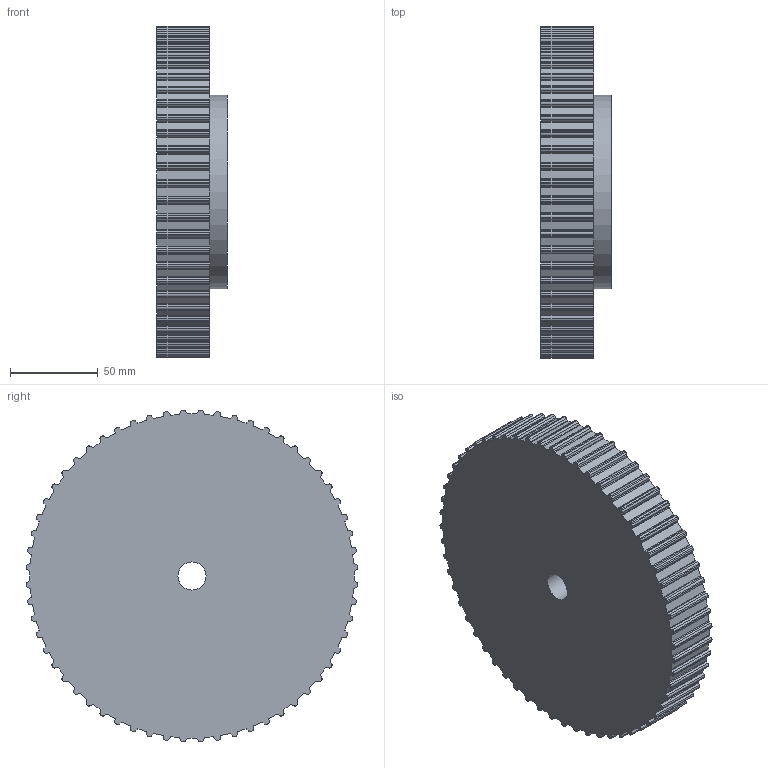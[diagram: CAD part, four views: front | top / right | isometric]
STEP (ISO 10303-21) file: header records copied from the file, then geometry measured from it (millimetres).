
FILE_DESCRIPTION( ( 'STEP AP203' ), '1' );
FILE_NAME( 'C:/Users/Stangenbergd/Documents/CAD_Step/1/16836000.stp', '2020-09-13T09:26:36', ( 'License CC BY-ND 4.0' ), ( 'CADENAS' ), ' ', 'PARTsolutions', ' ' );
FILE_SCHEMA( ( 'CONFIG_CONTROL_DESIGN' ) );
Length unit declared in the file: millimetre
Products named in the file (1): _16836000
Bounding box: 40 x 188.95 x 188.95 mm (x, y, z)
Volume: 902677.1 mm3; surface area: 81550.8 mm2
Topology: 1 solids, 1 shells, 485 faces, 1446 edges, 964 vertices
Faces by surface type: cylinder 302, plane 183
Full cylindrical faces by diameter (mm): 16 x1, 110 x1
Entity records: 16582 total; most frequent: DIRECTION 3020, CARTESIAN_POINT 2894, ORIENTED_EDGE 2888, EDGE_CURVE 1444, AXIS2_PLACEMENT_3D 1090, VERTEX_POINT 964, LINE 840, VECTOR 840
